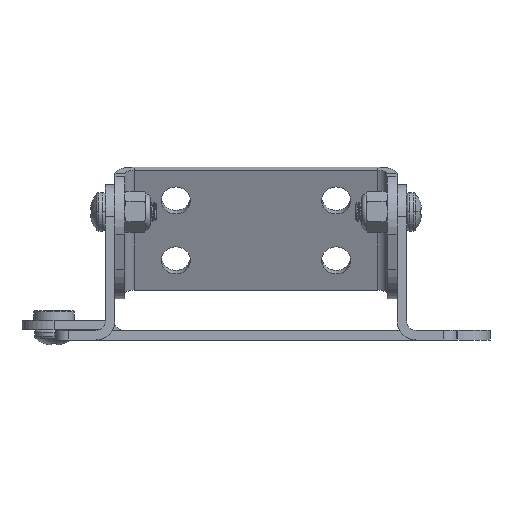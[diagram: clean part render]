
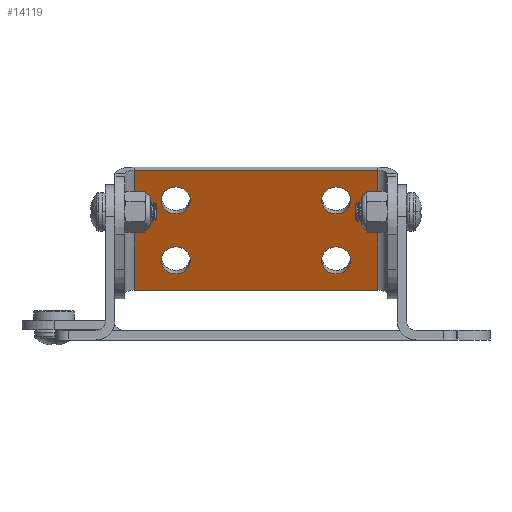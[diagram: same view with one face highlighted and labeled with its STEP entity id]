
A CAD part, front view. The second image highlights one B-rep face of the part: STEP entity #14119.
In plain terms, the highlighted planar face has unit normal (0, -0.935, -0.355) as drawn and (0, 0, -1) by its records, which use the part's own axes.
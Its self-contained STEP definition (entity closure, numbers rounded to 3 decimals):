
#201 = CARTESIAN_POINT ( 'NONE',  ( -12.5, -5., -1.5 ) ) ;
#209 = DIRECTION ( 'NONE',  ( -1., 0., 0. ) ) ;
#340 = PLANE ( 'NONE',  #11906 ) ;
#525 = ORIENTED_EDGE ( 'NONE', *, *, #11312, .F. ) ;
#796 = DIRECTION ( 'NONE',  ( 0., 0., -1. ) ) ;
#863 = CARTESIAN_POINT ( 'NONE',  ( -12.5, 5., -1.5 ) ) ;
#1026 = FACE_BOUND ( 'NONE', #12372, .T. ) ;
#1125 = AXIS2_PLACEMENT_3D ( 'NONE', #10262, #4201, #3113 ) ;
#1349 = AXIS2_PLACEMENT_3D ( 'NONE', #11538, #796, #7751 ) ;
#1523 = EDGE_CURVE ( 'NONE', #10620, #4715, #4568, .T. ) ;
#2282 = VERTEX_POINT ( 'NONE', #11557 ) ;
#2576 = EDGE_CURVE ( 'NONE', #9985, #8783, #7523, .T. ) ;
#3052 = DIRECTION ( 'NONE',  ( -1., 0., 0. ) ) ;
#3113 = DIRECTION ( 'NONE',  ( -1., 0., 0. ) ) ;
#3152 = EDGE_CURVE ( 'NONE', #8750, #13862, #13549, .T. ) ;
#3362 = ORIENTED_EDGE ( 'NONE', *, *, #2576, .F. ) ;
#3681 = CARTESIAN_POINT ( 'NONE',  ( -19., 10., -1.5 ) ) ;
#4037 = DIRECTION ( 'NONE',  ( -1., 0., 0. ) ) ;
#4065 = ORIENTED_EDGE ( 'NONE', *, *, #10063, .F. ) ;
#4201 = DIRECTION ( 'NONE',  ( 0., 0., -1. ) ) ;
#4279 = CARTESIAN_POINT ( 'NONE',  ( -12.5, -5., -1.5 ) ) ;
#4534 = CARTESIAN_POINT ( 'NONE',  ( -19., 10., -1.5 ) ) ;
#4568 = LINE ( 'NONE', #13320, #14337 ) ;
#4572 = CARTESIAN_POINT ( 'NONE',  ( 19., -10., -1.5 ) ) ;
#4715 = VERTEX_POINT ( 'NONE', #4534 ) ;
#4876 = VERTEX_POINT ( 'NONE', #6316 ) ;
#4953 = FACE_BOUND ( 'NONE', #9151, .T. ) ;
#4994 = CIRCLE ( 'NONE', #13115, 2.25 ) ;
#5139 = CARTESIAN_POINT ( 'NONE',  ( -22., -10., -1.5 ) ) ;
#5181 = DIRECTION ( 'NONE',  ( 1., 0., 0. ) ) ;
#5310 = FACE_BOUND ( 'NONE', #7687, .T. ) ;
#5449 = EDGE_CURVE ( 'NONE', #15370, #7328, #4994, .T. ) ;
#5580 = ORIENTED_EDGE ( 'NONE', *, *, #7919, .F. ) ;
#5856 = EDGE_LOOP ( 'NONE', ( #525, #7379 ) ) ;
#5977 = ORIENTED_EDGE ( 'NONE', *, *, #5449, .F. ) ;
#6316 = CARTESIAN_POINT ( 'NONE',  ( 14.75, 5., -1.5 ) ) ;
#6700 = EDGE_CURVE ( 'NONE', #9248, #2282, #13061, .T. ) ;
#7294 = ORIENTED_EDGE ( 'NONE', *, *, #9222, .F. ) ;
#7328 = VERTEX_POINT ( 'NONE', #10514 ) ;
#7350 = CIRCLE ( 'NONE', #1125, 2.25 ) ;
#7379 = ORIENTED_EDGE ( 'NONE', *, *, #11563, .F. ) ;
#7523 = CIRCLE ( 'NONE', #8553, 2.25 ) ;
#7591 = DIRECTION ( 'NONE',  ( 0., 0., -1. ) ) ;
#7687 = EDGE_LOOP ( 'NONE', ( #7294, #5977 ) ) ;
#7751 = DIRECTION ( 'NONE',  ( -1., 0., 0. ) ) ;
#7792 = CARTESIAN_POINT ( 'NONE',  ( 19., 10., -1.5 ) ) ;
#7919 = EDGE_CURVE ( 'NONE', #13862, #10620, #11439, .T. ) ;
#8091 = CIRCLE ( 'NONE', #14606, 2.25 ) ;
#8162 = DIRECTION ( 'NONE',  ( 0., 1., 0. ) ) ;
#8254 = ORIENTED_EDGE ( 'NONE', *, *, #12616, .F. ) ;
#8337 = VECTOR ( 'NONE', #10829, 1000. ) ;
#8382 = AXIS2_PLACEMENT_3D ( 'NONE', #12835, #9326, #11732 ) ;
#8553 = AXIS2_PLACEMENT_3D ( 'NONE', #4279, #13650, #14862 ) ;
#8572 = CARTESIAN_POINT ( 'NONE',  ( 12.5, 5., -1.5 ) ) ;
#8621 = DIRECTION ( 'NONE',  ( -1., 0., 0. ) ) ;
#8624 = CARTESIAN_POINT ( 'NONE',  ( 10.25, 5., -1.5 ) ) ;
#8635 = VERTEX_POINT ( 'NONE', #8624 ) ;
#8698 = ORIENTED_EDGE ( 'NONE', *, *, #6700, .F. ) ;
#8750 = VERTEX_POINT ( 'NONE', #11347 ) ;
#8783 = VERTEX_POINT ( 'NONE', #10264 ) ;
#9021 = CARTESIAN_POINT ( 'NONE',  ( 10.25, -5., -1.5 ) ) ;
#9151 = EDGE_LOOP ( 'NONE', ( #8698, #10838 ) ) ;
#9222 = EDGE_CURVE ( 'NONE', #7328, #15370, #10094, .T. ) ;
#9247 = DIRECTION ( 'NONE',  ( 0., 0., -1. ) ) ;
#9248 = VERTEX_POINT ( 'NONE', #9021 ) ;
#9326 = DIRECTION ( 'NONE',  ( 0., 0., -1. ) ) ;
#9452 = CARTESIAN_POINT ( 'NONE',  ( 19., -10., -1.5 ) ) ;
#9985 = VERTEX_POINT ( 'NONE', #14146 ) ;
#10063 = EDGE_CURVE ( 'NONE', #4715, #8750, #14373, .T. ) ;
#10094 = CIRCLE ( 'NONE', #13570, 2.25 ) ;
#10262 = CARTESIAN_POINT ( 'NONE',  ( 12.5, 5., -1.5 ) ) ;
#10264 = CARTESIAN_POINT ( 'NONE',  ( -14.75, -5., -1.5 ) ) ;
#10462 = DIRECTION ( 'NONE',  ( -1., 0., 0. ) ) ;
#10514 = CARTESIAN_POINT ( 'NONE',  ( -14.75, 5., -1.5 ) ) ;
#10620 = VERTEX_POINT ( 'NONE', #7792 ) ;
#10685 = VECTOR ( 'NONE', #8162, 1000. ) ;
#10829 = DIRECTION ( 'NONE',  ( 0., -1., 0. ) ) ;
#10838 = ORIENTED_EDGE ( 'NONE', *, *, #11767, .F. ) ;
#10908 = CIRCLE ( 'NONE', #1349, 2.25 ) ;
#11081 = DIRECTION ( 'NONE',  ( 0., 0., -1. ) ) ;
#11312 = EDGE_CURVE ( 'NONE', #8635, #4876, #8091, .T. ) ;
#11347 = CARTESIAN_POINT ( 'NONE',  ( -19., -10., -1.5 ) ) ;
#11439 = LINE ( 'NONE', #9452, #10685 ) ;
#11538 = CARTESIAN_POINT ( 'NONE',  ( 12.5, -5., -1.5 ) ) ;
#11557 = CARTESIAN_POINT ( 'NONE',  ( 14.75, -5., -1.5 ) ) ;
#11563 = EDGE_CURVE ( 'NONE', #4876, #8635, #7350, .T. ) ;
#11732 = DIRECTION ( 'NONE',  ( -1., 0., 0. ) ) ;
#11767 = EDGE_CURVE ( 'NONE', #2282, #9248, #10908, .T. ) ;
#11891 = ORIENTED_EDGE ( 'NONE', *, *, #1523, .F. ) ;
#11906 = AXIS2_PLACEMENT_3D ( 'NONE', #12284, #7591, #4037 ) ;
#12284 = CARTESIAN_POINT ( 'NONE',  ( 0., 0., -1.5 ) ) ;
#12372 = EDGE_LOOP ( 'NONE', ( #8254, #3362 ) ) ;
#12616 = EDGE_CURVE ( 'NONE', #8783, #9985, #15311, .T. ) ;
#12636 = FACE_BOUND ( 'NONE', #5856, .T. ) ;
#12795 = CARTESIAN_POINT ( 'NONE',  ( -12.5, 5., -1.5 ) ) ;
#12835 = CARTESIAN_POINT ( 'NONE',  ( 12.5, -5., -1.5 ) ) ;
#13061 = CIRCLE ( 'NONE', #8382, 2.25 ) ;
#13115 = AXIS2_PLACEMENT_3D ( 'NONE', #863, #9247, #10462 ) ;
#13198 = EDGE_LOOP ( 'NONE', ( #15345, #4065, #11891, #5580 ) ) ;
#13320 = CARTESIAN_POINT ( 'NONE',  ( -22., 10., -1.5 ) ) ;
#13536 = DIRECTION ( 'NONE',  ( -1., 0., 0. ) ) ;
#13549 = LINE ( 'NONE', #5139, #14472 ) ;
#13570 = AXIS2_PLACEMENT_3D ( 'NONE', #12795, #15233, #3052 ) ;
#13650 = DIRECTION ( 'NONE',  ( 0., 0., -1. ) ) ;
#13777 = FACE_OUTER_BOUND ( 'NONE', #13198, .T. ) ;
#13862 = VERTEX_POINT ( 'NONE', #4572 ) ;
#14119 = ADVANCED_FACE ( 'NONE', ( #4953, #1026, #12636, #5310, #13777 ), #340, .T. ) ;
#14146 = CARTESIAN_POINT ( 'NONE',  ( -10.25, -5., -1.5 ) ) ;
#14337 = VECTOR ( 'NONE', #209, 1000. ) ;
#14373 = LINE ( 'NONE', #3681, #8337 ) ;
#14472 = VECTOR ( 'NONE', #5181, 1000. ) ;
#14595 = CARTESIAN_POINT ( 'NONE',  ( -10.25, 5., -1.5 ) ) ;
#14606 = AXIS2_PLACEMENT_3D ( 'NONE', #8572, #14635, #8621 ) ;
#14635 = DIRECTION ( 'NONE',  ( 0., 0., -1. ) ) ;
#14862 = DIRECTION ( 'NONE',  ( -1., 0., 0. ) ) ;
#14928 = AXIS2_PLACEMENT_3D ( 'NONE', #201, #11081, #13536 ) ;
#15233 = DIRECTION ( 'NONE',  ( 0., 0., -1. ) ) ;
#15311 = CIRCLE ( 'NONE', #14928, 2.25 ) ;
#15345 = ORIENTED_EDGE ( 'NONE', *, *, #3152, .F. ) ;
#15370 = VERTEX_POINT ( 'NONE', #14595 ) ;
